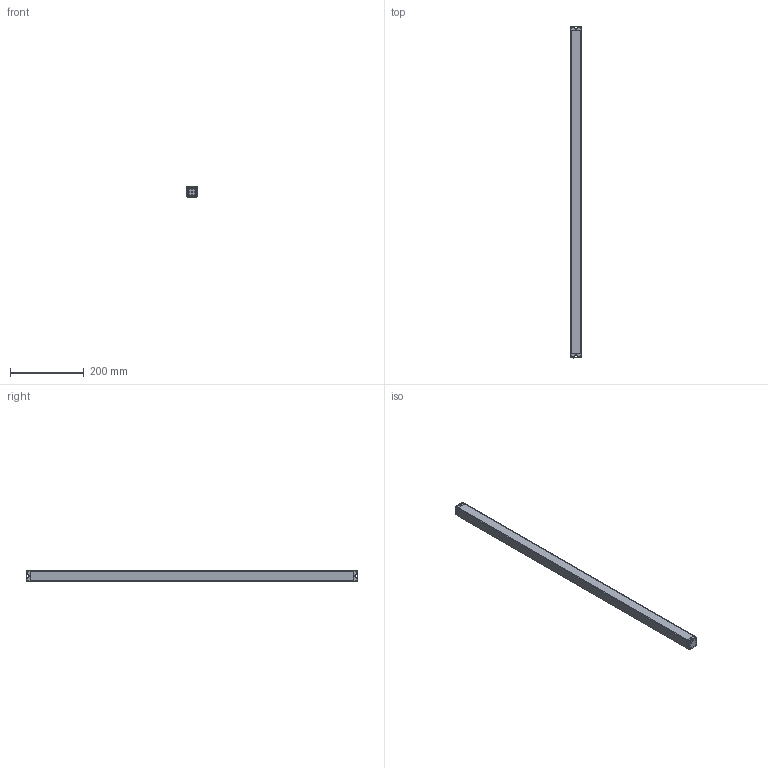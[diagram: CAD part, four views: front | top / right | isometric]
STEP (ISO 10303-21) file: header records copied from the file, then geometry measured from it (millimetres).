
FILE_DESCRIPTION((''),'2;1');
FILE_NAME('ELD00_ASM','2021-07-20T09:52:45',('18720616900'),(''),'CREO PARAMETRIC BY PTC INC, 2019010','CREO PARAMETRIC BY PTC INC, 2019010','');
FILE_SCHEMA(('CONFIG_CONTROL_DESIGN'));
Length unit declared in the file: millimetre
Products named in the file (6): ELD--00; ELD--000; ST-3-12; ELD00_ASM
Assembly tree (12 placements, depth 2):
  ELD00_ASM
    ELD--00
    ELD--000
    ELD--000
    ELD--000
    ST-3-12  x8
Bounding box: 28 x 902 x 28 mm (x, y, z)
Volume: 702969.9 mm3; surface area: 148442.2 mm2
Topology: 12 solids, 12 shells, 792 faces, 2082 edges, 1296 vertices
Faces by surface type: plane 236, cone 172, bspline 168, cylinder 156, torus 44, sphere 16
Entity records: 14414 total; most frequent: CARTESIAN_POINT 6863, ORIENTED_EDGE 1584, DIRECTION 1469, EDGE_CURVE 792, AXIS2_PLACEMENT_3D 520, VERTEX_POINT 491, VECTOR 429, LINE 429
